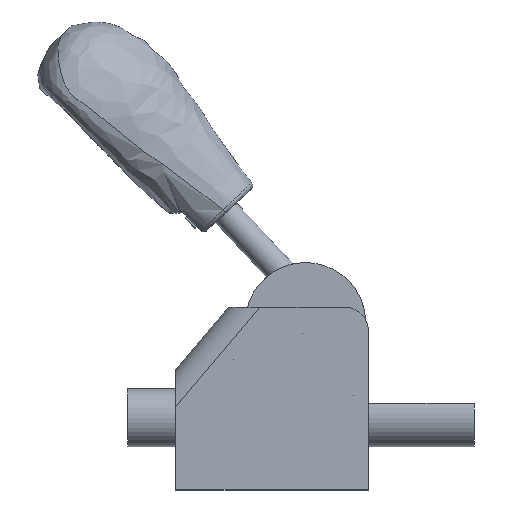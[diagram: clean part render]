
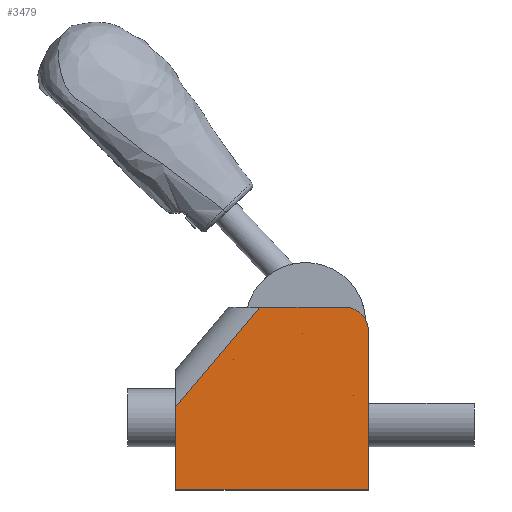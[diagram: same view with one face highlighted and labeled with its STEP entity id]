
A CAD part, top view. The second image highlights one B-rep face of the part: STEP entity #3479.
In plain terms, the highlighted planar face has unit normal (0, 0, 1).
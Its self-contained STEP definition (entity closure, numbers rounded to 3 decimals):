
#99=CIRCLE('',#3810,5.);
#100=CIRCLE('',#3811,0.005);
#101=CIRCLE('',#3812,0.005);
#102=CIRCLE('',#3813,0.005);
#255=FACE_BOUND('',#665,.T.);
#256=FACE_BOUND('',#666,.T.);
#257=FACE_BOUND('',#667,.T.);
#462=FACE_OUTER_BOUND('',#664,.T.);
#664=EDGE_LOOP('',(#2436,#2437,#2438,#2439,#2440,#2441));
#665=EDGE_LOOP('',(#2442));
#666=EDGE_LOOP('',(#2443));
#667=EDGE_LOOP('',(#2444));
#896=LINE('',#5445,#1171);
#902=LINE('',#5469,#1177);
#907=LINE('',#5477,#1182);
#908=LINE('',#5480,#1183);
#909=LINE('',#5482,#1184);
#1171=VECTOR('',#4217,10.);
#1177=VECTOR('',#4241,10.);
#1182=VECTOR('',#4248,10.);
#1183=VECTOR('',#4251,10.);
#1184=VECTOR('',#4252,10.);
#1473=VERTEX_POINT('',#5442);
#1474=VERTEX_POINT('',#5444);
#1482=VERTEX_POINT('',#5466);
#1483=VERTEX_POINT('',#5468);
#1486=VERTEX_POINT('',#5479);
#1487=VERTEX_POINT('',#5481);
#1488=VERTEX_POINT('',#5484);
#1489=VERTEX_POINT('',#5486);
#1490=VERTEX_POINT('',#5488);
#1844=EDGE_CURVE('',#1473,#1474,#896,.T.);
#1856=EDGE_CURVE('',#1482,#1483,#902,.T.);
#1861=EDGE_CURVE('',#1474,#1482,#907,.T.);
#1862=EDGE_CURVE('',#1486,#1473,#908,.T.);
#1863=EDGE_CURVE('',#1487,#1486,#909,.T.);
#1864=EDGE_CURVE('',#1483,#1487,#99,.T.);
#1865=EDGE_CURVE('',#1488,#1488,#100,.T.);
#1866=EDGE_CURVE('',#1489,#1489,#101,.T.);
#1867=EDGE_CURVE('',#1490,#1490,#102,.T.);
#2436=ORIENTED_EDGE('',*,*,#1861,.F.);
#2437=ORIENTED_EDGE('',*,*,#1844,.F.);
#2438=ORIENTED_EDGE('',*,*,#1862,.F.);
#2439=ORIENTED_EDGE('',*,*,#1863,.F.);
#2440=ORIENTED_EDGE('',*,*,#1864,.F.);
#2441=ORIENTED_EDGE('',*,*,#1856,.F.);
#2442=ORIENTED_EDGE('',*,*,#1865,.T.);
#2443=ORIENTED_EDGE('',*,*,#1866,.T.);
#2444=ORIENTED_EDGE('',*,*,#1867,.T.);
#3378=PLANE('',#3809);
#3479=ADVANCED_FACE('',(#462,#255,#256,#257),#3378,.T.);
#3809=AXIS2_PLACEMENT_3D('',#5478,#4249,#4250);
#3810=AXIS2_PLACEMENT_3D('',#5483,#4253,#4254);
#3811=AXIS2_PLACEMENT_3D('',#5485,#4255,#4256);
#3812=AXIS2_PLACEMENT_3D('',#5487,#4257,#4258);
#3813=AXIS2_PLACEMENT_3D('',#5489,#4259,#4260);
#4217=DIRECTION('',(0.,1.,0.));
#4241=DIRECTION('',(1.,0.,0.));
#4248=DIRECTION('',(0.643,0.766,0.));
#4249=DIRECTION('center_axis',(0.,0.,1.));
#4250=DIRECTION('ref_axis',(1.,0.,0.));
#4251=DIRECTION('',(-1.,0.,0.));
#4252=DIRECTION('',(0.,-1.,0.));
#4253=DIRECTION('center_axis',(0.,0.,-1.));
#4254=DIRECTION('ref_axis',(0.707,0.707,0.));
#4255=DIRECTION('center_axis',(0.,0.,-1.));
#4256=DIRECTION('ref_axis',(-1.,0.,0.));
#4257=DIRECTION('center_axis',(0.,0.,-1.));
#4258=DIRECTION('ref_axis',(-1.,0.,0.));
#4259=DIRECTION('center_axis',(0.,0.,-1.));
#4260=DIRECTION('ref_axis',(-1.,0.,0.));
#5442=CARTESIAN_POINT('',(1033.56,58.403,20.));
#5444=CARTESIAN_POINT('',(1033.56,75.624,20.));
#5445=CARTESIAN_POINT('',(1033.56,58.403,20.));
#5466=CARTESIAN_POINT('',(1050.995,96.403,20.));
#5468=CARTESIAN_POINT('',(1068.56,96.403,20.));
#5469=CARTESIAN_POINT('',(1044.468,96.403,20.));
#5477=CARTESIAN_POINT('',(1040.023,83.326,20.));
#5478=CARTESIAN_POINT('Origin',(1054.713,76.345,20.));
#5479=CARTESIAN_POINT('',(1073.56,58.403,20.));
#5480=CARTESIAN_POINT('',(1073.56,58.403,20.));
#5481=CARTESIAN_POINT('',(1073.56,91.403,20.));
#5482=CARTESIAN_POINT('',(1073.56,96.403,20.));
#5483=CARTESIAN_POINT('Origin',(1068.56,91.403,20.));
#5484=CARTESIAN_POINT('',(1045.565,85.453,20.));
#5485=CARTESIAN_POINT('Origin',(1045.56,85.453,20.));
#5486=CARTESIAN_POINT('',(1070.565,78.003,20.));
#5487=CARTESIAN_POINT('Origin',(1070.56,78.003,20.));
#5488=CARTESIAN_POINT('',(1059.865,90.903,20.));
#5489=CARTESIAN_POINT('Origin',(1059.86,90.903,20.));
